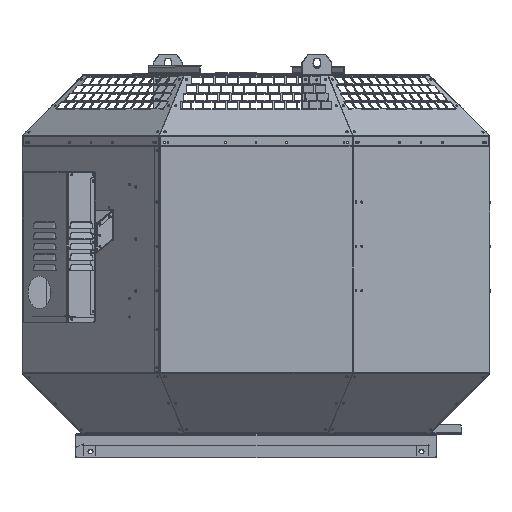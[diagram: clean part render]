
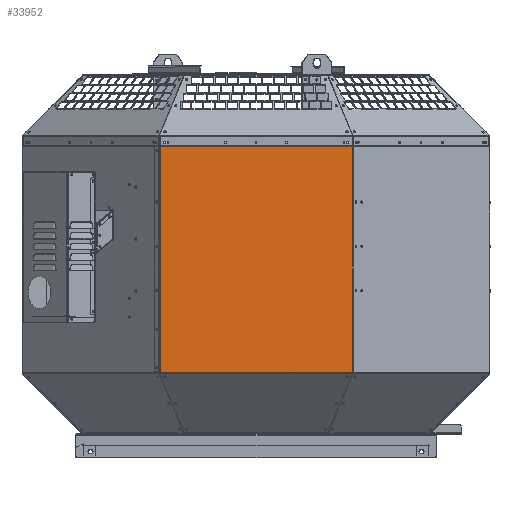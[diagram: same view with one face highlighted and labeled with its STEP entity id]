
A CAD part, top view. The second image highlights one B-rep face of the part: STEP entity #33952.
In plain terms, the highlighted planar face has unit normal (0, 0, 1).
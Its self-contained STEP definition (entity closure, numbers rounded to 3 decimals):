
#1358 = FACE_OUTER_BOUND ( 'NONE', #87363, .T. ) ;
#6712 = LINE ( 'NONE', #42059, #101835 ) ;
#8925 = ORIENTED_EDGE ( 'NONE', *, *, #94945, .F. ) ;
#9613 = VECTOR ( 'NONE', #68957, 1000. ) ;
#9956 = LINE ( 'NONE', #74845, #102182 ) ;
#10385 = DIRECTION ( 'NONE',  ( -1., 0., 0. ) ) ;
#12820 = ORIENTED_EDGE ( 'NONE', *, *, #45477, .T. ) ;
#14019 = LINE ( 'NONE', #92027, #109154 ) ;
#15769 = VECTOR ( 'NONE', #77769, 1000. ) ;
#22494 = CARTESIAN_POINT ( 'NONE',  ( 186.396, 573.321, 451. ) ) ;
#23986 = LINE ( 'NONE', #83352, #94594 ) ;
#27365 = ORIENTED_EDGE ( 'NONE', *, *, #71192, .F. ) ;
#27384 = LINE ( 'NONE', #69875, #73581 ) ;
#27961 = DIRECTION ( 'NONE',  ( 0., 1., 0. ) ) ;
#33709 = AXIS2_PLACEMENT_3D ( 'NONE', #62352, #108665, #53467 ) ;
#33952 = ADVANCED_FACE ( 'NONE', ( #1358 ), #44246, .T. ) ;
#35143 = VERTEX_POINT ( 'NONE', #68604 ) ;
#37389 = DIRECTION ( 'NONE',  ( 0.573, 0.819, 0. ) ) ;
#40256 = LINE ( 'NONE', #22494, #15769 ) ;
#42059 = CARTESIAN_POINT ( 'NONE',  ( 186.396, 573.321, 451. ) ) ;
#42497 = VERTEX_POINT ( 'NONE', #89944 ) ;
#44246 = PLANE ( 'NONE',  #33709 ) ;
#45477 = EDGE_CURVE ( 'NONE', #35143, #53648, #9956, .T. ) ;
#45868 = VECTOR ( 'NONE', #72356, 1000. ) ;
#46017 = VERTEX_POINT ( 'NONE', #58324 ) ;
#46807 = EDGE_CURVE ( 'NONE', #101935, #98262, #6712, .T. ) ;
#51315 = DIRECTION ( 'NONE',  ( 0., -1., 0. ) ) ;
#53467 = DIRECTION ( 'NONE',  ( 1., 0., 0. ) ) ;
#53648 = VERTEX_POINT ( 'NONE', #82541 ) ;
#58324 = CARTESIAN_POINT ( 'NONE',  ( -183.896, 138.814, 451. ) ) ;
#62352 = CARTESIAN_POINT ( 'NONE',  ( 186.396, 594.314, 451. ) ) ;
#62547 = CARTESIAN_POINT ( 'NONE',  ( -184.596, 137.814, 451. ) ) ;
#63210 = CARTESIAN_POINT ( 'NONE',  ( 185.485, 137.814, 451. ) ) ;
#64291 = ORIENTED_EDGE ( 'NONE', *, *, #46807, .F. ) ;
#66557 = CARTESIAN_POINT ( 'NONE',  ( -183.971, 573.321, 451. ) ) ;
#67910 = VERTEX_POINT ( 'NONE', #112613 ) ;
#68604 = CARTESIAN_POINT ( 'NONE',  ( 185.485, 573.314, 451. ) ) ;
#68957 = DIRECTION ( 'NONE',  ( 0., -1., 0. ) ) ;
#69875 = CARTESIAN_POINT ( 'NONE',  ( 185.485, 594.314, 451. ) ) ;
#70795 = CARTESIAN_POINT ( 'NONE',  ( -183.896, 573.321, 451. ) ) ;
#71192 = EDGE_CURVE ( 'NONE', #46017, #42497, #113574, .T. ) ;
#72356 = DIRECTION ( 'NONE',  ( -1., 0., 0. ) ) ;
#73581 = VECTOR ( 'NONE', #51315, 1000. ) ;
#74659 = ORIENTED_EDGE ( 'NONE', *, *, #117423, .F. ) ;
#74845 = CARTESIAN_POINT ( 'NONE',  ( 188.035, 573.314, 451. ) ) ;
#77769 = DIRECTION ( 'NONE',  ( 1., 0., 0. ) ) ;
#82210 = VECTOR ( 'NONE', #103387, 1000. ) ;
#82541 = CARTESIAN_POINT ( 'NONE',  ( 185.035, 573.314, 451. ) ) ;
#83352 = CARTESIAN_POINT ( 'NONE',  ( -183.896, 138.814, 451. ) ) ;
#83597 = VERTEX_POINT ( 'NONE', #63210 ) ;
#85227 = ORIENTED_EDGE ( 'NONE', *, *, #114982, .F. ) ;
#87363 = EDGE_LOOP ( 'NONE', ( #64291, #97833, #27365, #74659, #8925, #107394, #12820, #116910, #85227 ) ) ;
#89944 = CARTESIAN_POINT ( 'NONE',  ( -183.971, 138.814, 451. ) ) ;
#90059 = EDGE_CURVE ( 'NONE', #53648, #67910, #14019, .T. ) ;
#92027 = CARTESIAN_POINT ( 'NONE',  ( 185.035, 594.314, 451. ) ) ;
#94594 = VECTOR ( 'NONE', #37389, 1000. ) ;
#94945 = EDGE_CURVE ( 'NONE', #83597, #110006, #106640, .T. ) ;
#97647 = DIRECTION ( 'NONE',  ( 1., 0., 0. ) ) ;
#97833 = ORIENTED_EDGE ( 'NONE', *, *, #113202, .T. ) ;
#98262 = VERTEX_POINT ( 'NONE', #70795 ) ;
#101499 = EDGE_CURVE ( 'NONE', #35143, #83597, #27384, .T. ) ;
#101835 = VECTOR ( 'NONE', #97647, 1000. ) ;
#101935 = VERTEX_POINT ( 'NONE', #66557 ) ;
#102182 = VECTOR ( 'NONE', #10385, 1000. ) ;
#102978 = CARTESIAN_POINT ( 'NONE',  ( 186.396, 137.814, 451. ) ) ;
#103387 = DIRECTION ( 'NONE',  ( -1., 0., 0. ) ) ;
#104702 = LINE ( 'NONE', #114878, #9613 ) ;
#106640 = LINE ( 'NONE', #102978, #82210 ) ;
#107394 = ORIENTED_EDGE ( 'NONE', *, *, #101499, .F. ) ;
#108665 = DIRECTION ( 'NONE',  ( 0., 0., 1. ) ) ;
#109154 = VECTOR ( 'NONE', #27961, 1000. ) ;
#110006 = VERTEX_POINT ( 'NONE', #62547 ) ;
#112613 = CARTESIAN_POINT ( 'NONE',  ( 185.035, 573.321, 451. ) ) ;
#113202 = EDGE_CURVE ( 'NONE', #101935, #42497, #104702, .T. ) ;
#113574 = LINE ( 'NONE', #118273, #45868 ) ;
#114878 = CARTESIAN_POINT ( 'NONE',  ( -183.971, 573.321, 451. ) ) ;
#114982 = EDGE_CURVE ( 'NONE', #98262, #67910, #40256, .T. ) ;
#116910 = ORIENTED_EDGE ( 'NONE', *, *, #90059, .T. ) ;
#117423 = EDGE_CURVE ( 'NONE', #110006, #46017, #23986, .T. ) ;
#118273 = CARTESIAN_POINT ( 'NONE',  ( -186.396, 138.814, 451. ) ) ;
